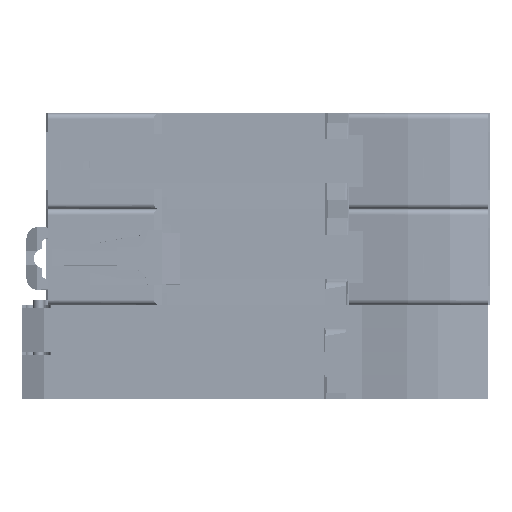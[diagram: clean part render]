
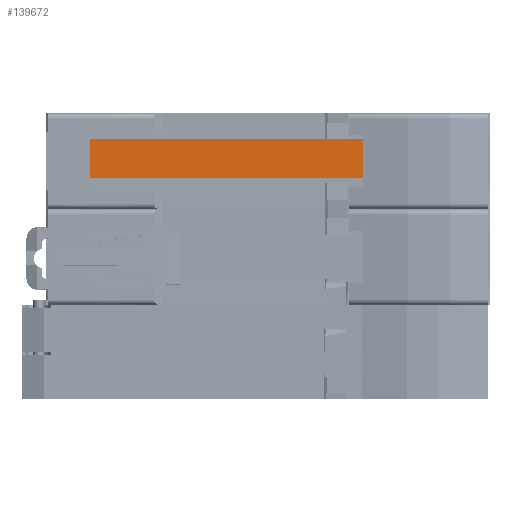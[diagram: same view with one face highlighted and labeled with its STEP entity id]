
A CAD part, front view. The second image highlights one B-rep face of the part: STEP entity #139672.
In plain terms, the highlighted planar face has unit normal (0, -1, 0).
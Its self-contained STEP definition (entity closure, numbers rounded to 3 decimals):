
#349 = VERTEX_POINT ( 'NONE', #85493 ) ;
#4604 = EDGE_CURVE ( 'NONE', #171519, #221411, #263664, .T. ) ;
#9459 = CARTESIAN_POINT ( 'NONE',  ( -51.258, 3.207, 1.315 ) ) ;
#42560 = PLANE ( 'NONE',  #250782 ) ;
#43436 = DIRECTION ( 'NONE',  ( 0., 1., 0. ) ) ;
#47393 = VERTEX_POINT ( 'NONE', #134189 ) ;
#48091 = LINE ( 'NONE', #188031, #135691 ) ;
#49392 = ORIENTED_EDGE ( 'NONE', *, *, #134702, .T. ) ;
#63446 = CARTESIAN_POINT ( 'NONE',  ( -135.966, 3.207, -20.282 ) ) ;
#69814 = DIRECTION ( 'NONE',  ( -1., 0., 0. ) ) ;
#76356 = VECTOR ( 'NONE', #224701, 1000. ) ;
#79141 = CARTESIAN_POINT ( 'NONE',  ( -36.661, 3.207, 1.315 ) ) ;
#79609 = EDGE_CURVE ( 'NONE', #349, #128465, #164202, .T. ) ;
#81356 = VECTOR ( 'NONE', #197035, 1000. ) ;
#84504 = DIRECTION ( 'NONE',  ( 0., 0., 1. ) ) ;
#85493 = CARTESIAN_POINT ( 'NONE',  ( -54.111, 3.207, 1.315 ) ) ;
#107066 = DIRECTION ( 'NONE',  ( 1., 0., 0. ) ) ;
#117793 = DIRECTION ( 'NONE',  ( 0.009, 0., -1. ) ) ;
#128465 = VERTEX_POINT ( 'NONE', #9459 ) ;
#134189 = CARTESIAN_POINT ( 'NONE',  ( -47.196, 3.207, 1.315 ) ) ;
#134702 = EDGE_CURVE ( 'NONE', #47393, #234662, #255719, .T. ) ;
#135691 = VECTOR ( 'NONE', #84504, 1000. ) ;
#139672 = ADVANCED_FACE ( 'NONE', ( #166503 ), #42560, .F. ) ;
#141345 = EDGE_CURVE ( 'NONE', #349, #171519, #48091, .T. ) ;
#144441 = EDGE_LOOP ( 'NONE', ( #175601, #235512, #161047, #242894, #187577, #49392 ) ) ;
#157467 = CARTESIAN_POINT ( 'NONE',  ( -3.938, 3.207, 8.4 ) ) ;
#161047 = ORIENTED_EDGE ( 'NONE', *, *, #141345, .F. ) ;
#164202 = LINE ( 'NONE', #79141, #76356 ) ;
#166503 = FACE_OUTER_BOUND ( 'NONE', #144441, .T. ) ;
#168708 = LINE ( 'NONE', #173416, #224227 ) ;
#171519 = VERTEX_POINT ( 'NONE', #177245 ) ;
#173416 = CARTESIAN_POINT ( 'NONE',  ( -135.966, 3.207, 1.315 ) ) ;
#174439 = CARTESIAN_POINT ( 'NONE',  ( -36.661, 3.207, 1.315 ) ) ;
#175601 = ORIENTED_EDGE ( 'NONE', *, *, #252955, .F. ) ;
#176246 = DIRECTION ( 'NONE',  ( 1., 0., 0. ) ) ;
#177245 = CARTESIAN_POINT ( 'NONE',  ( -54.111, 3.207, 8.4 ) ) ;
#182536 = VECTOR ( 'NONE', #117793, 1000. ) ;
#187577 = ORIENTED_EDGE ( 'NONE', *, *, #256941, .F. ) ;
#188031 = CARTESIAN_POINT ( 'NONE',  ( -54.111, 3.207, -20.282 ) ) ;
#197035 = DIRECTION ( 'NONE',  ( 1., 0., 0. ) ) ;
#221411 = VERTEX_POINT ( 'NONE', #157467 ) ;
#224227 = VECTOR ( 'NONE', #69814, 1000. ) ;
#224599 = CARTESIAN_POINT ( 'NONE',  ( -3.876, 3.207, 1.315 ) ) ;
#224701 = DIRECTION ( 'NONE',  ( 1., 0., 0. ) ) ;
#226423 = VECTOR ( 'NONE', #176246, 1000. ) ;
#234662 = VERTEX_POINT ( 'NONE', #224599 ) ;
#234865 = LINE ( 'NONE', #241608, #182536 ) ;
#235512 = ORIENTED_EDGE ( 'NONE', *, *, #4604, .F. ) ;
#239000 = CARTESIAN_POINT ( 'NONE',  ( -135.966, 3.207, 8.4 ) ) ;
#241608 = CARTESIAN_POINT ( 'NONE',  ( -3.938, 3.207, 8.4 ) ) ;
#242894 = ORIENTED_EDGE ( 'NONE', *, *, #79609, .T. ) ;
#250782 = AXIS2_PLACEMENT_3D ( 'NONE', #63446, #43436, #107066 ) ;
#252955 = EDGE_CURVE ( 'NONE', #221411, #234662, #234865, .T. ) ;
#255719 = LINE ( 'NONE', #174439, #226423 ) ;
#256941 = EDGE_CURVE ( 'NONE', #47393, #128465, #168708, .T. ) ;
#263664 = LINE ( 'NONE', #239000, #81356 ) ;
